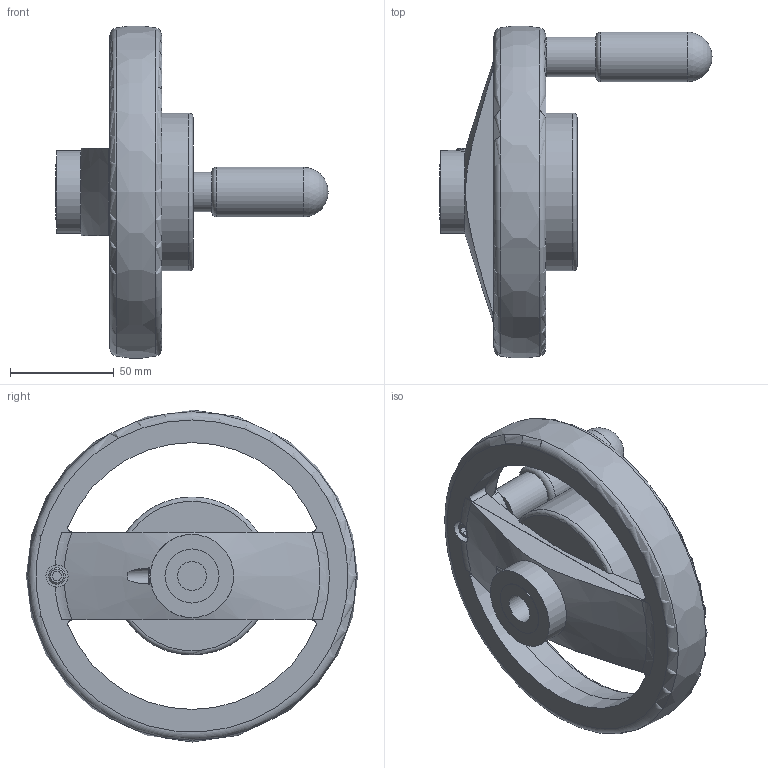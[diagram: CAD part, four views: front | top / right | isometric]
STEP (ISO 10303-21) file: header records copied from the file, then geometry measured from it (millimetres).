
FILE_DESCRIPTION( ( 'STEP AP203' ), '1' );
FILE_NAME( 'C:/Temp/Ganter_Step_05_03_2020/data/1_4/gn_522_8/gn_522_8_b/gn_522_8_b_d/Spoked handwheel GN 522.8-160-B14-D.stp', '2020-03-05T10:53:29', ( 'License CC BY-ND 4.0' ), ( 'CADENAS' ), ' ', 'PARTsolutions', ' ' );
FILE_SCHEMA( ( 'CONFIG_CONTROL_DESIGN' ) );
Length unit declared in the file: millimetre
Products named in the file (1): _Spoked handwheel GN 522.8-160-B14-D
Bounding box: 131 x 159.78 x 159.78 mm (x, y, z)
Volume: 322568.1 mm3; surface area: 78173.3 mm2
Topology: 1 solids, 1 shells, 94 faces, 237 edges, 154 vertices
Faces by surface type: plane 46, cylinder 28, cone 9, torus 9, sphere 1, bspline 1
Full cylindrical faces by diameter (mm): 6 x4, 8 x1, 10.667 x1, 14 x1, 14.25 x1, 19 x1, 24 x1, 26 x1, 40 x1, 67 x1, 68.8 x1, 76 x1
Entity records: 3099 total; most frequent: CARTESIAN_POINT 996, DIRECTION 414, ORIENTED_EDGE 396, EDGE_CURVE 198, AXIS2_PLACEMENT_3D 174, VERTEX_POINT 142, EDGE_LOOP 139, FACE_OUTER_BOUND 115
